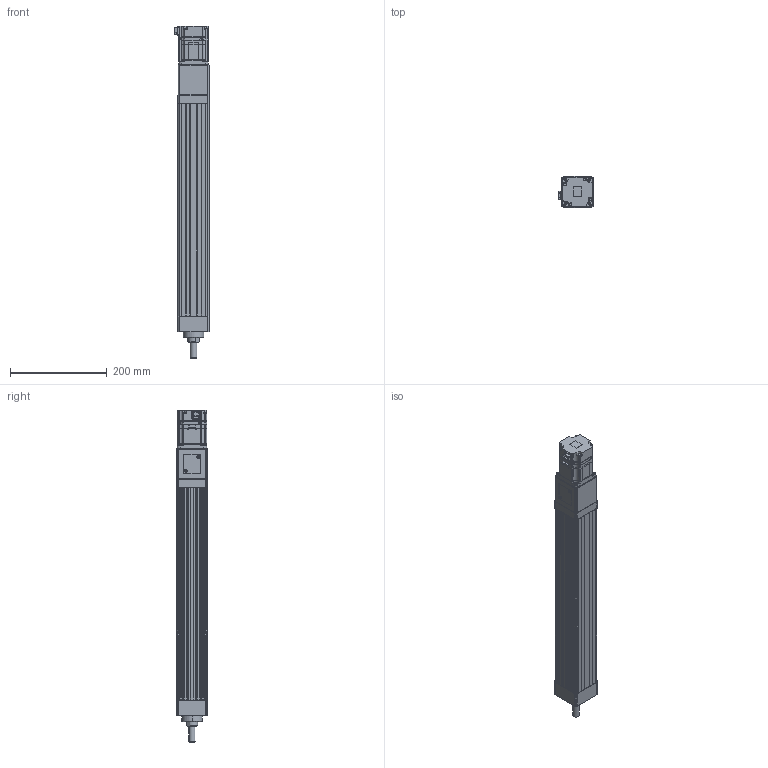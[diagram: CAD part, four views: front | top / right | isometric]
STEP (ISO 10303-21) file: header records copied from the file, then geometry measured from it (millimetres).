
FILE_DESCRIPTION (( 'STEP AP203' ), '1' );
FILE_NAME ('ANS065-S350-05(10)-W20-M.STEP', '2019-03-03T05:57:02', ( 'user' ), ( '' ), 'SwSTEP 2.0', 'SolidWorks 2013', '' );
FILE_SCHEMA (( 'CONFIG_CONTROL_DESIGN' ));
Length unit declared in the file: millimetre
Products named in the file (4): ANS065 S350 VER2; sgmjv_02a_a21; ANS065 ROD ST350-M; ANS065-S350-05(10)-W20-M
Assembly tree (3 placements, depth 2):
  ANS065-S350-05(10)-W20-M
    ANS065 S350 VER2
    sgmjv_02a_a21
    ANS065 ROD ST350-M
Bounding box: 71.3 x 65 x 684.6 mm (x, y, z)
Volume: 1612853.4 mm3; surface area: 396432.2 mm2
Topology: 3 solids, 7 shells, 1081 faces, 2861 edges, 1841 vertices
Faces by surface type: plane 637, cylinder 358, cone 86
Entity records: 33609 total; most frequent: CARTESIAN_POINT 5983, DIRECTION 5713, ORIENTED_EDGE 5674, EDGE_CURVE 2837, LINE 2007, VECTOR 2007, AXIS2_PLACEMENT_3D 1853, VERTEX_POINT 1841
